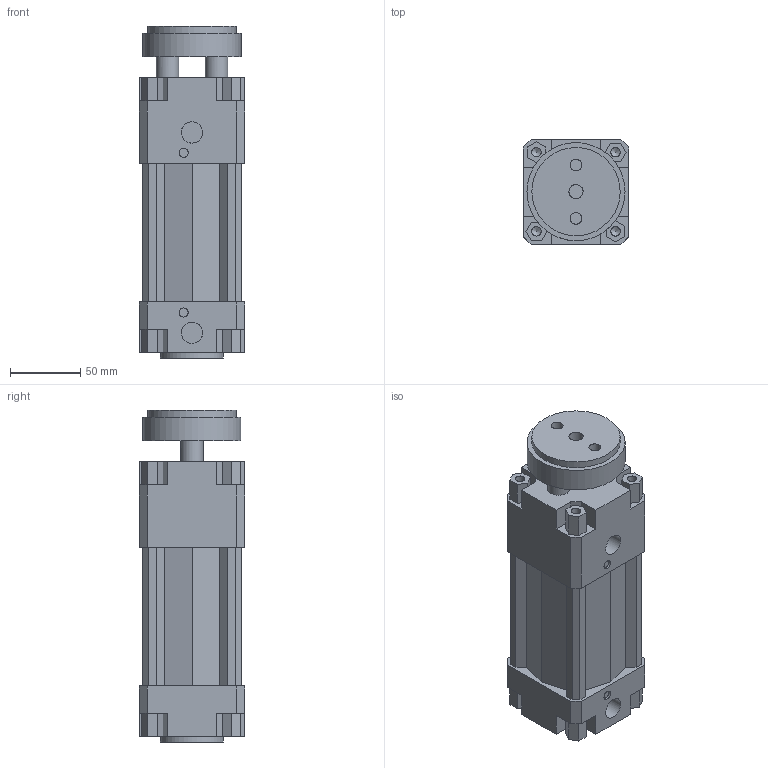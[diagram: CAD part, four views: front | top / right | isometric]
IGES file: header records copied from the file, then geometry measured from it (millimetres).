
Global section: file name: 134#_063_0050_01; native system: Autodesk Inventor 2014; preprocessor: unknown; author: A. Manieri; date: 20161006.165103; units: millimetre
Bounding box: 75 x 75 x 237 mm (x, y, z)
Volume: 886998 mm3; surface area: 154835.3 mm2
Topology: 2 solids, 2 shells, 180 faces, 491 edges, 335 vertices
Faces by surface type: bspline 180
